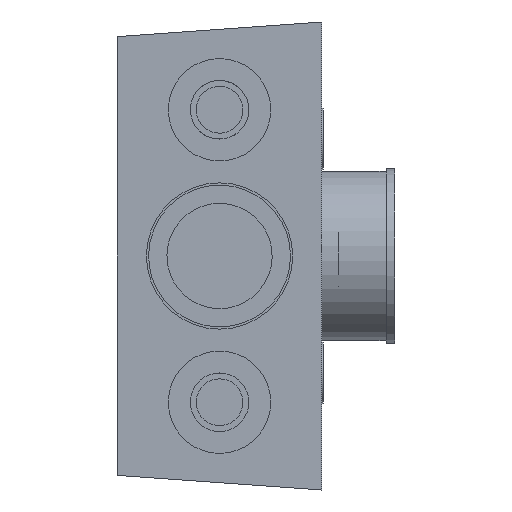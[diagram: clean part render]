
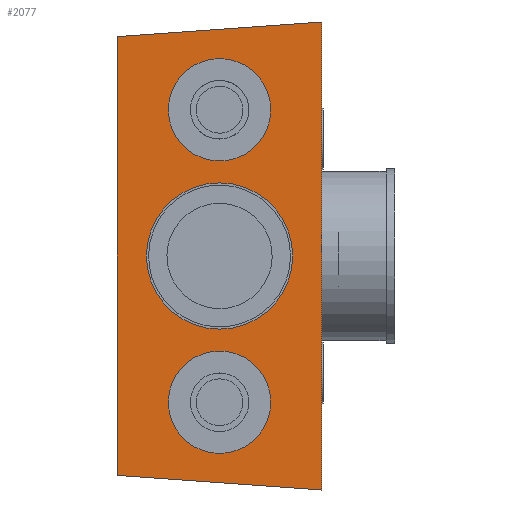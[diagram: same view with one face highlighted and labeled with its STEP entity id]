
A CAD part, front view. The second image highlights one B-rep face of the part: STEP entity #2077.
In plain terms, the highlighted planar face has unit normal (0, -1, 0).
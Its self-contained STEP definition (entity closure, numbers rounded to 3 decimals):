
#112=FACE_BOUND('',#369,.T.);
#113=FACE_BOUND('',#370,.T.);
#114=FACE_BOUND('',#371,.T.);
#141=PLANE('',#2356);
#237=FACE_OUTER_BOUND('',#368,.T.);
#368=EDGE_LOOP('',(#1541,#1542,#1543,#1544));
#369=EDGE_LOOP('',(#1545));
#370=EDGE_LOOP('',(#1546));
#371=EDGE_LOOP('',(#1547));
#503=LINE('',#3121,#710);
#507=LINE('',#3130,#714);
#511=LINE('',#3137,#718);
#512=LINE('',#3138,#719);
#710=VECTOR('',#2591,10.);
#714=VECTOR('',#2597,10.);
#718=VECTOR('',#2603,10.);
#719=VECTOR('',#2604,10.);
#936=CIRCLE('',#2357,25.);
#937=CIRCLE('',#2358,17.5);
#938=CIRCLE('',#2359,17.5);
#990=VERTEX_POINT('',#3119);
#991=VERTEX_POINT('',#3120);
#994=VERTEX_POINT('',#3128);
#995=VERTEX_POINT('',#3129);
#998=VERTEX_POINT('',#3139);
#999=VERTEX_POINT('',#3141);
#1000=VERTEX_POINT('',#3143);
#1199=EDGE_CURVE('',#990,#991,#503,.T.);
#1203=EDGE_CURVE('',#994,#995,#507,.T.);
#1207=EDGE_CURVE('',#994,#991,#511,.T.);
#1208=EDGE_CURVE('',#990,#995,#512,.T.);
#1209=EDGE_CURVE('',#998,#998,#936,.T.);
#1210=EDGE_CURVE('',#999,#999,#937,.T.);
#1211=EDGE_CURVE('',#1000,#1000,#938,.T.);
#1541=ORIENTED_EDGE('',*,*,#1199,.T.);
#1542=ORIENTED_EDGE('',*,*,#1207,.F.);
#1543=ORIENTED_EDGE('',*,*,#1203,.T.);
#1544=ORIENTED_EDGE('',*,*,#1208,.F.);
#1545=ORIENTED_EDGE('',*,*,#1209,.T.);
#1546=ORIENTED_EDGE('',*,*,#1210,.T.);
#1547=ORIENTED_EDGE('',*,*,#1211,.T.);
#2077=ADVANCED_FACE('',(#237,#112,#113,#114),#141,.T.);
#2356=AXIS2_PLACEMENT_3D('',#3136,#2601,#2602);
#2357=AXIS2_PLACEMENT_3D('',#3140,#2605,#2606);
#2358=AXIS2_PLACEMENT_3D('',#3142,#2607,#2608);
#2359=AXIS2_PLACEMENT_3D('',#3144,#2609,#2610);
#2591=DIRECTION('',(-0.997,0.,-0.071));
#2597=DIRECTION('',(0.997,0.,-0.071));
#2601=DIRECTION('center_axis',(0.,-1.,0.));
#2602=DIRECTION('ref_axis',(0.,0.,-1.));
#2603=DIRECTION('',(0.,0.,1.));
#2604=DIRECTION('',(0.,0.,-1.));
#2605=DIRECTION('center_axis',(0.,1.,0.));
#2606=DIRECTION('ref_axis',(-1.,0.,0.));
#2607=DIRECTION('center_axis',(0.,1.,0.));
#2608=DIRECTION('ref_axis',(-1.,0.,0.));
#2609=DIRECTION('center_axis',(0.,1.,0.));
#2610=DIRECTION('ref_axis',(-1.,0.,0.));
#3119=CARTESIAN_POINT('',(70.,0.,0.));
#3120=CARTESIAN_POINT('',(0.,0.,-5.));
#3121=CARTESIAN_POINT('',(0.178,0.,-4.987));
#3128=CARTESIAN_POINT('',(0.,0.,-155.));
#3129=CARTESIAN_POINT('',(70.,0.,-160.));
#3130=CARTESIAN_POINT('',(29.492,0.,-157.107));
#3136=CARTESIAN_POINT('Origin',(0.,0.,0.));
#3137=CARTESIAN_POINT('',(0.,0.,-160.));
#3138=CARTESIAN_POINT('',(70.,0.,-160.));
#3139=CARTESIAN_POINT('',(60.,0.,-80.));
#3140=CARTESIAN_POINT('Origin',(35.,0.,-80.));
#3141=CARTESIAN_POINT('',(52.5,0.,-130.));
#3142=CARTESIAN_POINT('Origin',(35.,0.,-130.));
#3143=CARTESIAN_POINT('',(52.5,0.,-30.));
#3144=CARTESIAN_POINT('Origin',(35.,0.,-30.));
